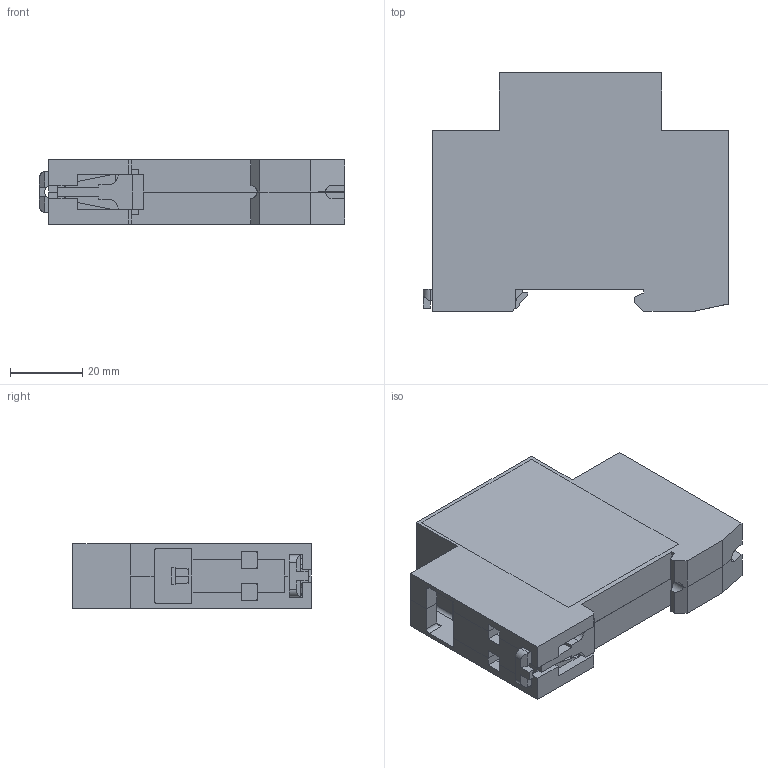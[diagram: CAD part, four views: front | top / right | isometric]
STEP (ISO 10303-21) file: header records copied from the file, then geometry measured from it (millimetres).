
FILE_DESCRIPTION (( 'STEP AP214' ), '1' );
FILE_NAME ('OptiDin MK100 1M.STEP', '2022-12-16T13:09:10', ( '' ), ( '' ), 'SwSTEP 2.0', 'SolidWorks 2018', '' );
FILE_SCHEMA (( 'AUTOMOTIVE_DESIGN' ));
Length unit declared in the file: millimetre
Products named in the file (14): êîëîäê âèíò âûâîä ìàëåíüêèå; âûâîä êîëîäêà ñð è âèíò; âûâîä ìàëåíüêèé; Êîëîäêà ìàëåíüêàÿ; Çàù¸ëêà ÃÆÈÊ.741358.031_¤«ï á¡®àª¨; Êîëîäêà ñðåäíÿÿ; 膰豵鵨 2; OptiDin MK100 1M; 膰豵鵨 1; âèíò â ñð êîëîäêó; âèíò â ìàë êîëîäêó; 鼫謱欈睯縺; âûâîä ñð; 鼫謱欈睯縺 2
Assembly tree (17 placements, depth 3):
  OptiDin MK100 1M
    膰豵鵨 1
    膰豵鵨 2
    鼫謱欈睯縺
    鼫謱欈睯縺 2
    âûâîä êîëîäêà ñð è âèíò  x4
      Êîëîäêà ñðåäíÿÿ
      âèíò â ñð êîëîäêó
      âûâîä ñð
    Çàù¸ëêà ÃÆÈÊ.741358.031_¤«ï á¡®àª¨
    êîëîäê âèíò âûâîä ìàëåíüêèå  x2
      Êîëîäêà ìàëåíüêàÿ
      âûâîä ìàëåíüêèé
      âèíò â ìàë êîëîäêó
Bounding box: 84.6 x 66 x 17.8 mm (x, y, z)
Volume: 31660.6 mm3; surface area: 41311.7 mm2
Topology: 23 solids, 23 shells, 844 faces, 2351 edges, 1547 vertices
Faces by surface type: plane 647, cylinder 173, torus 24
Entity records: 16950 total; most frequent: CARTESIAN_POINT 3158, ORIENTED_EDGE 2874, DIRECTION 2632, EDGE_CURVE 1437, VECTOR 1154, LINE 1154, VERTEX_POINT 945, AXIS2_PLACEMENT_3D 739
